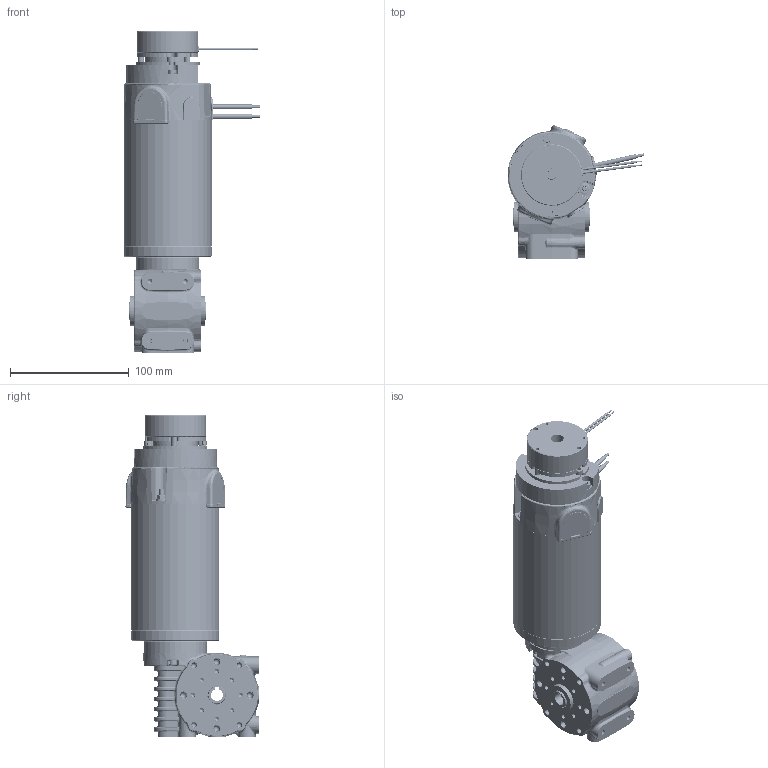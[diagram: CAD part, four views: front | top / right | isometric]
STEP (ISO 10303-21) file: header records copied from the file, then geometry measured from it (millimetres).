
FILE_DESCRIPTION (( 'STEP AP214' ), '1' );
FILE_NAME ('BRx70-60-GB80 - Diff Encoder - Brake.STEP', '2025-09-10T15:04:06', ( '' ), ( '' ), 'SwSTEP 2.0', 'SolidWorks 2023', '' );
FILE_SCHEMA (( 'AUTOMOTIVE_DESIGN' ));
Length unit declared in the file: millimetre
Products named in the file (1): BRx70-60-GB80 - Diff Encoder - Brake
Bounding box: 115.11 x 111.85 x 270.24 mm (x, y, z)
Volume: 545598 mm3; surface area: 250144.1 mm2
Topology: 62 solids, 62 shells, 11917 faces, 31692 edges, 20490 vertices
Faces by surface type: plane 5612, cylinder 4287, cone 785, bspline 674, torus 489, sphere 70
Entity records: 545702 total; most frequent: CARTESIAN_POINT 119747, ORIENTED_EDGE 63050, DIRECTION 59876, EDGE_CURVE 31525, AXIS2_PLACEMENT_3D 20768, VERTEX_POINT 20490, VECTOR 18340, LINE 18340
